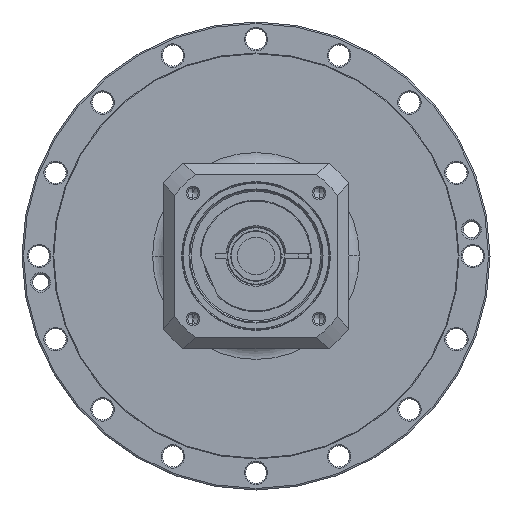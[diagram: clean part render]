
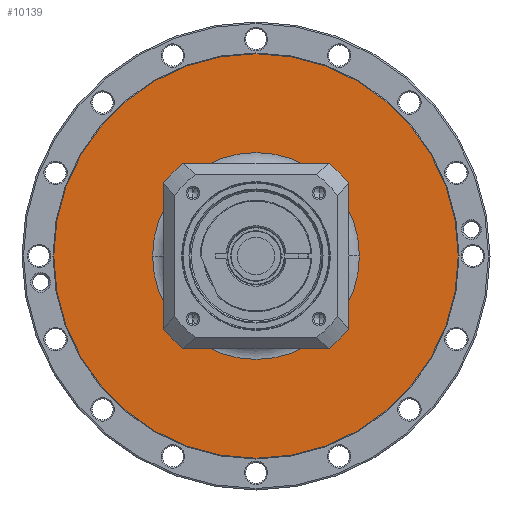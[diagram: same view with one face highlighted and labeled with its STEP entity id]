
A CAD part, left-side view. The second image highlights one B-rep face of the part: STEP entity #10139.
In plain terms, the highlighted planar face has unit normal (-1, 0, 0) as drawn and (1, 0, 0) by its records, which use the part's own axes.
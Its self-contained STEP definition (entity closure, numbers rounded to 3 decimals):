
#9170=CARTESIAN_POINT('',(-11.5,0.,0.));
#9171=DIRECTION('',(-1.,0.,0.));
#9172=DIRECTION('',(0.,-1.,0.));
#9173=AXIS2_PLACEMENT_3D('',#9170,#9171,#9172);
#9175=CARTESIAN_POINT('',(-11.5,0.,0.));
#9176=DIRECTION('',(-1.,0.,0.));
#9177=DIRECTION('',(0.,1.,0.));
#9178=AXIS2_PLACEMENT_3D('',#9175,#9176,#9177);
#9180=CARTESIAN_POINT('',(-11.5,0.,0.));
#9181=DIRECTION('',(-1.,0.,0.));
#9182=DIRECTION('',(0.,-1.,0.));
#9183=AXIS2_PLACEMENT_3D('',#9180,#9181,#9182);
#9185=CARTESIAN_POINT('',(-11.5,0.,0.));
#9186=DIRECTION('',(-1.,0.,0.));
#9187=DIRECTION('',(0.,1.,0.));
#9188=AXIS2_PLACEMENT_3D('',#9185,#9186,#9187);
#9432=CARTESIAN_POINT('',(-11.5,-130.5,0.));
#9433=CARTESIAN_POINT('',(-11.5,130.5,0.));
#9434=VERTEX_POINT('',#9432);
#9435=VERTEX_POINT('',#9433);
#9490=CARTESIAN_POINT('',(-11.5,-66.75,0.));
#9491=CARTESIAN_POINT('',(-11.5,66.75,0.));
#9492=VERTEX_POINT('',#9490);
#9493=VERTEX_POINT('',#9491);
#10124=CARTESIAN_POINT('',(-11.5,0.,0.));
#10125=DIRECTION('',(1.,0.,0.));
#10126=DIRECTION('',(0.,-1.,0.));
#10127=AXIS2_PLACEMENT_3D('',#10124,#10125,#10126);
#10128=PLANE('',#10127);
#10129=ORIENTED_EDGE('',*,*,#10080,.T.);
#10130=ORIENTED_EDGE('',*,*,#10065,.T.);
#10131=EDGE_LOOP('',(#10129,#10130));
#10132=FACE_OUTER_BOUND('',#10131,.F.);
#10134=ORIENTED_EDGE('',*,*,#10133,.F.);
#10136=ORIENTED_EDGE('',*,*,#10135,.F.);
#10137=EDGE_LOOP('',(#10134,#10136));
#10138=FACE_BOUND('',#10137,.F.);
#10139=ADVANCED_FACE('',(#10132,#10138),#10128,.T.);
#9174=CIRCLE('',#9173,66.75);
#9179=CIRCLE('',#9178,66.75);
#9184=CIRCLE('',#9183,130.5);
#9189=CIRCLE('',#9188,130.5);
#10065=EDGE_CURVE('',#9435,#9434,#9189,.T.);
#10080=EDGE_CURVE('',#9434,#9435,#9184,.T.);
#10133=EDGE_CURVE('',#9492,#9493,#9174,.T.);
#10135=EDGE_CURVE('',#9493,#9492,#9179,.T.);
